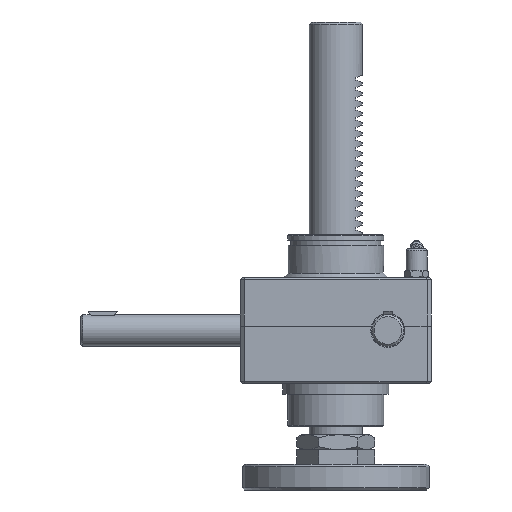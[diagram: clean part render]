
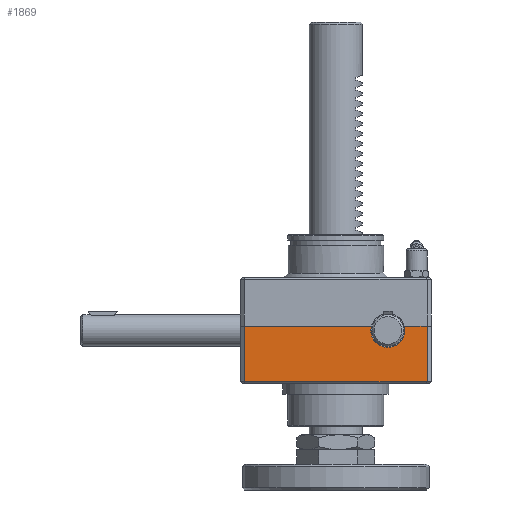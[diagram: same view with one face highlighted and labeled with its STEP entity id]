
A CAD part, front view. The second image highlights one B-rep face of the part: STEP entity #1869.
In plain terms, the highlighted planar face has unit normal (0, -1, 0).
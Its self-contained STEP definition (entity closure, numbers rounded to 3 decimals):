
#1869=ADVANCED_FACE('',(#4864),#4865,.T.);
#4864=FACE_OUTER_BOUND('',#9812,.T.);
#4865=PLANE('',#9813);
#9812=EDGE_LOOP('',(#17193,#17194,#17195,#17196,#17197,#17198));
#9813=AXIS2_PLACEMENT_3D('',#17199,#17200,#17201);
#17193=ORIENTED_EDGE('',*,*,#33293,.F.);
#17194=ORIENTED_EDGE('',*,*,#33094,.T.);
#17195=ORIENTED_EDGE('',*,*,#33193,.T.);
#17196=ORIENTED_EDGE('',*,*,#33294,.F.);
#17197=ORIENTED_EDGE('',*,*,#33232,.F.);
#17198=ORIENTED_EDGE('',*,*,#33087,.F.);
#17199=CARTESIAN_POINT('',(45.0,-45.0,0.0));
#17200=DIRECTION('',(0.,-1.0,0.));
#17201=DIRECTION('',(0.0,0.,-1.0));
#33087=EDGE_CURVE('',#39912,#39914,#39915,.T.);
#33094=EDGE_CURVE('',#39927,#39928,#39929,.T.);
#33193=EDGE_CURVE('',#39928,#40105,#40107,.T.);
#33232=EDGE_CURVE('',#39914,#40164,#40165,.T.);
#33293=EDGE_CURVE('',#39927,#39912,#40263,.T.);
#33294=EDGE_CURVE('',#40164,#40105,#40264,.T.);
#39912=VERTEX_POINT('',#51660);
#39914=VERTEX_POINT('',#51663);
#39915=CIRCLE('',#51664,8.0);
#39927=VERTEX_POINT('',#51678);
#39928=VERTEX_POINT('',#51679);
#39929=LINE('',#51680,#51681);
#40105=VERTEX_POINT('',#51924);
#40107=LINE('',#51927,#51928);
#40164=VERTEX_POINT('',#52022);
#40165=LINE('',#52023,#52024);
#40263=LINE('',#52164,#52165);
#40264=LINE('',#52166,#52167);
#51660=CARTESIAN_POINT('',(16.754,-45.0,0.));
#51663=CARTESIAN_POINT('',(32.246,-45.0,0.));
#51664=AXIS2_PLACEMENT_3D('',#66681,#66682,#66683);
#51678=CARTESIAN_POINT('',(-43.0,-45.0,0.));
#51679=CARTESIAN_POINT('',(-43.0,-45.0,-26.0));
#51680=CARTESIAN_POINT('',(-43.0,-45.0,-13.5));
#51681=VECTOR('',#66698,1.0);
#51924=CARTESIAN_POINT('',(43.0,-45.0,-26.0));
#51927=CARTESIAN_POINT('',(0.0,-45.0,-26.0));
#51928=VECTOR('',#66860,1.0);
#52022=CARTESIAN_POINT('',(43.0,-45.0,0.0));
#52023=CARTESIAN_POINT('',(37.623,-45.0,0.));
#52024=VECTOR('',#66921,1.0);
#52164=CARTESIAN_POINT('',(-13.123,-45.0,0.));
#52165=VECTOR('',#67018,1.0);
#52166=CARTESIAN_POINT('',(43.0,-45.0,-13.5));
#52167=VECTOR('',#67019,1.0);
#66681=CARTESIAN_POINT('',(24.5,-45.0,-2.0));
#66682=DIRECTION('',(0.,-1.0,0.));
#66683=DIRECTION('',(1.0,0.,0.));
#66698=DIRECTION('',(0.,0.0,-1.0));
#66860=DIRECTION('',(1.0,0.0,0.));
#66921=DIRECTION('',(1.0,0.0,0.));
#67018=DIRECTION('',(1.0,0.0,0.));
#67019=DIRECTION('',(0.,0.,-1.0));
